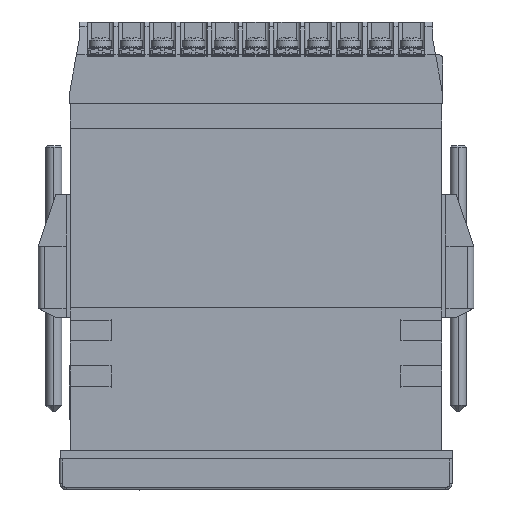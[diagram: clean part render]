
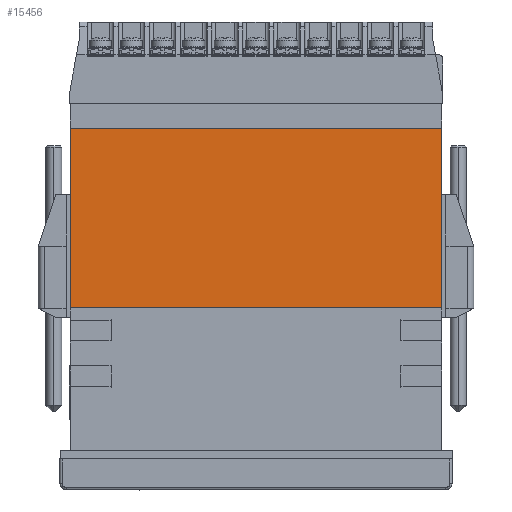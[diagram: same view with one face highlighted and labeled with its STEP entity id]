
A CAD part, top view. The second image highlights one B-rep face of the part: STEP entity #15456.
In plain terms, the highlighted planar face has unit normal (0, 0, 1) as drawn and (0, 0, -1) by its records, which use the part's own axes.
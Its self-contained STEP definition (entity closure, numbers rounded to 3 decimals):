
#9020=DIRECTION('',(0.,1.,0.));
#9021=VECTOR('',#9020,44.);
#9022=CARTESIAN_POINT('',(-45.5,6.,-21.8));
#9023=LINE('',#9022,#9021);
#10296=DIRECTION('',(0.,1.,0.));
#10297=VECTOR('',#10296,44.);
#10298=CARTESIAN_POINT('',(45.5,6.,-21.8));
#10299=LINE('',#10298,#10297);
#10765=DIRECTION('',(-1.,0.,0.));
#10766=VECTOR('',#10765,91.);
#10767=CARTESIAN_POINT('',(45.5,6.,-21.8));
#10768=LINE('',#10767,#10766);
#10772=DIRECTION('',(1.,0.,0.));
#10773=VECTOR('',#10772,91.);
#10774=CARTESIAN_POINT('',(-45.5,50.,-21.8));
#10775=LINE('',#10774,#10773);
#13654=CARTESIAN_POINT('',(-45.5,6.,-21.8));
#13655=CARTESIAN_POINT('',(-45.5,50.,-21.8));
#13656=VERTEX_POINT('',#13654);
#13657=VERTEX_POINT('',#13655);
#13662=CARTESIAN_POINT('',(45.5,6.,-21.8));
#13663=CARTESIAN_POINT('',(45.5,50.,-21.8));
#13664=VERTEX_POINT('',#13662);
#13665=VERTEX_POINT('',#13663);
#15444=CARTESIAN_POINT('',(0.,0.,-21.8));
#15445=DIRECTION('',(0.,0.,-1.));
#15446=DIRECTION('',(0.,1.,0.));
#15447=AXIS2_PLACEMENT_3D('',#15444,#15445,#15446);
#15448=PLANE('',#15447);
#15449=ORIENTED_EDGE('',*,*,#14335,.F.);
#15450=ORIENTED_EDGE('',*,*,#15439,.F.);
#15451=ORIENTED_EDGE('',*,*,#15077,.T.);
#15453=ORIENTED_EDGE('',*,*,#15452,.F.);
#15454=EDGE_LOOP('',(#15449,#15450,#15451,#15453));
#15455=FACE_OUTER_BOUND('',#15454,.F.);
#14335=EDGE_CURVE('',#13656,#13657,#9023,.T.);
#15077=EDGE_CURVE('',#13664,#13665,#10299,.T.);
#15439=EDGE_CURVE('',#13664,#13656,#10768,.T.);
#15452=EDGE_CURVE('',#13657,#13665,#10775,.T.);
#15456=ADVANCED_FACE('',(#15455),#15448,.T.);
